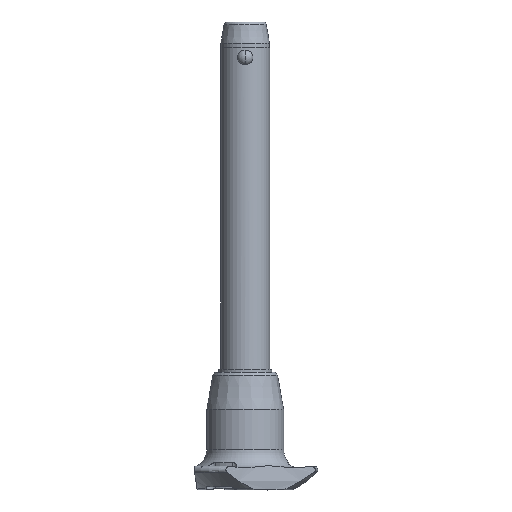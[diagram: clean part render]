
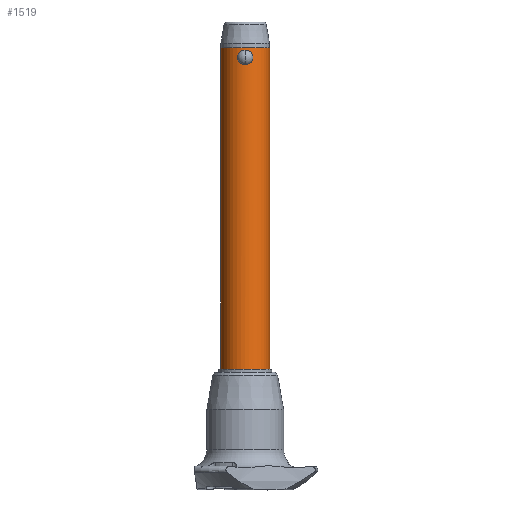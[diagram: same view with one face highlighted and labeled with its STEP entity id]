
A CAD part, front view. The second image highlights one B-rep face of the part: STEP entity #1519.
In plain terms, the highlighted cylindrical face has radius 8 mm (diameter 16 mm), a partial arc.
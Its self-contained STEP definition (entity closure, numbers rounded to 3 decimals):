
#17 = VECTOR ( 'NONE', #2094, 1000. ) ;
#35 = B_SPLINE_CURVE_WITH_KNOTS ( 'NONE', 3,
 ( #2719, #2483, #1841, #934, #1358, #1604, #1417, #2087, #2509, #2274, #479, #2260, #1133, #2073, #1638, #513, #966, #2021, #1793, #918, #2746, #277, #732, #2529, #2035, #2310, #64, #2925, #1861, #2765 ),
 .UNSPECIFIED., .F., .F.,
 ( 4, 2, 2, 2, 2, 2, 2, 2, 2, 2, 2, 2, 2, 2, 4 ),
 ( 0.008, 0.009, 0.009, 0.01, 0.01, 0.011, 0.011, 0.012, 0.012, 0.013, 0.014, 0.014, 0.015, 0.015, 0.016 ),
 .UNSPECIFIED. ) ;
#64 = CARTESIAN_POINT ( 'NONE',  ( 0.645, -7.976, 4.704 ) ) ;
#123 = EDGE_LOOP ( 'NONE', ( #2112, #1525 ) ) ;
#166 = CARTESIAN_POINT ( 'NONE',  ( 8., 0., -100. ) ) ;
#182 = CARTESIAN_POINT ( 'NONE',  ( -1.527, -7.854, 4.313 ) ) ;
#195 = CARTESIAN_POINT ( 'NONE',  ( -2.003, -7.746, 3.882 ) ) ;
#206 = CARTESIAN_POINT ( 'NONE',  ( -0.326, -7.995, 4.761 ) ) ;
#208 = VERTEX_POINT ( 'NONE', #166 ) ;
#243 = EDGE_CURVE ( 'NONE', #520, #1653, #543, .T. ) ;
#277 = CARTESIAN_POINT ( 'NONE',  ( 1.66, -7.827, 4.215 ) ) ;
#391 = CARTESIAN_POINT ( 'NONE',  ( -2.459, -7.613, 3.036 ) ) ;
#399 = ORIENTED_EDGE ( 'NONE', *, *, #2068, .T. ) ;
#401 = DIRECTION ( 'NONE',  ( 0., 0., -1. ) ) ;
#405 = CARTESIAN_POINT ( 'NONE',  ( -2.276, -7.67, 3.482 ) ) ;
#407 = VECTOR ( 'NONE', #953, 1000. ) ;
#420 = CARTESIAN_POINT ( 'NONE',  ( -1.254, -7.902, 0.297 ) ) ;
#431 = CARTESIAN_POINT ( 'NONE',  ( -2.461, -7.612, 1.746 ) ) ;
#447 = CARTESIAN_POINT ( 'NONE',  ( 0., -8., 0. ) ) ;
#452 = CIRCLE ( 'NONE', #874, 8. ) ;
#458 = CARTESIAN_POINT ( 'NONE',  ( -8., 0., -100. ) ) ;
#479 = CARTESIAN_POINT ( 'NONE',  ( 2.275, -7.67, 1.291 ) ) ;
#513 = CARTESIAN_POINT ( 'NONE',  ( 2.547, -7.584, 2.549 ) ) ;
#520 = VERTEX_POINT ( 'NONE', #1405 ) ;
#532 = LINE ( 'NONE', #1659, #17 ) ;
#543 = B_SPLINE_CURVE_WITH_KNOTS ( 'NONE', 3,
 ( #2203, #2642, #206, #897, #1076, #640, #871, #182, #2421, #886, #195, #844, #405, #1532, #391, #2440, #1749, #856, #2452, #431, #2696, #1065, #1555, #1788, #2674, #420, #1986, #2908, #1569, #2655 ),
 .UNSPECIFIED., .F., .F.,
 ( 4, 2, 2, 2, 2, 2, 2, 2, 2, 2, 2, 2, 2, 2, 4 ),
 ( 0., 0., 0.001, 0.001, 0.002, 0.002, 0.003, 0.003, 0.004, 0.004, 0.005, 0.006, 0.006, 0.007, 0.008 ),
 .UNSPECIFIED. ) ;
#609 = DIRECTION ( 'NONE',  ( 1., 0., 0. ) ) ;
#621 = DIRECTION ( 'NONE',  ( 0., 0., 1. ) ) ;
#640 = CARTESIAN_POINT ( 'NONE',  ( -1.107, -7.924, 4.548 ) ) ;
#671 = ORIENTED_EDGE ( 'NONE', *, *, #1961, .F. ) ;
#693 = LINE ( 'NONE', #2025, #407 ) ;
#732 = CARTESIAN_POINT ( 'NONE',  ( 1.529, -7.854, 4.312 ) ) ;
#754 = DIRECTION ( 'NONE',  ( 0., 0., 1. ) ) ;
#785 = CIRCLE ( 'NONE', #828, 8. ) ;
#828 = AXIS2_PLACEMENT_3D ( 'NONE', #1252, #621, #609 ) ;
#844 = CARTESIAN_POINT ( 'NONE',  ( -2.193, -7.694, 3.623 ) ) ;
#856 = CARTESIAN_POINT ( 'NONE',  ( -2.547, -7.584, 2.229 ) ) ;
#871 = CARTESIAN_POINT ( 'NONE',  ( -1.252, -7.903, 4.479 ) ) ;
#874 = AXIS2_PLACEMENT_3D ( 'NONE', #2184, #401, #1297 ) ;
#886 = CARTESIAN_POINT ( 'NONE',  ( -1.896, -7.773, 4.001 ) ) ;
#897 = CARTESIAN_POINT ( 'NONE',  ( -0.645, -7.976, 4.704 ) ) ;
#911 = ORIENTED_EDGE ( 'NONE', *, *, #1633, .F. ) ;
#918 = CARTESIAN_POINT ( 'NONE',  ( 2.211, -7.69, 3.626 ) ) ;
#934 = CARTESIAN_POINT ( 'NONE',  ( 1.105, -7.925, 0.226 ) ) ;
#953 = DIRECTION ( 'NONE',  ( 0., 0., 1. ) ) ;
#966 = CARTESIAN_POINT ( 'NONE',  ( 2.529, -7.59, 2.71 ) ) ;
#989 = FACE_OUTER_BOUND ( 'NONE', #2407, .T. ) ;
#1065 = CARTESIAN_POINT ( 'NONE',  ( -2.211, -7.69, 1.148 ) ) ;
#1076 = CARTESIAN_POINT ( 'NONE',  ( -0.803, -7.961, 4.661 ) ) ;
#1133 = CARTESIAN_POINT ( 'NONE',  ( 2.46, -7.613, 1.742 ) ) ;
#1156 = CARTESIAN_POINT ( 'NONE',  ( 0., 0., -100. ) ) ;
#1252 = CARTESIAN_POINT ( 'NONE',  ( 0., 0., 5.6 ) ) ;
#1297 = DIRECTION ( 'NONE',  ( 1., 0., 0. ) ) ;
#1341 = EDGE_CURVE ( 'NONE', #1653, #520, #35, .T. ) ;
#1358 = CARTESIAN_POINT ( 'NONE',  ( 1.252, -7.903, 0.296 ) ) ;
#1405 = CARTESIAN_POINT ( 'NONE',  ( 0., -8., 4.775 ) ) ;
#1417 = CARTESIAN_POINT ( 'NONE',  ( 1.657, -7.827, 0.558 ) ) ;
#1492 = EDGE_CURVE ( 'NONE', #2117, #2492, #532, .T. ) ;
#1519 = ADVANCED_FACE ( 'NONE', ( #989, #1868 ), #1849, .T. ) ;
#1525 = ORIENTED_EDGE ( 'NONE', *, *, #1341, .F. ) ;
#1532 = CARTESIAN_POINT ( 'NONE',  ( -2.408, -7.629, 3.189 ) ) ;
#1555 = CARTESIAN_POINT ( 'NONE',  ( -2.016, -7.746, 0.883 ) ) ;
#1557 = VERTEX_POINT ( 'NONE', #2373 ) ;
#1569 = CARTESIAN_POINT ( 'NONE',  ( -0.324, -8., 0. ) ) ;
#1604 = CARTESIAN_POINT ( 'NONE',  ( 1.529, -7.854, 0.463 ) ) ;
#1633 = EDGE_CURVE ( 'NONE', #2492, #1557, #785, .T. ) ;
#1638 = CARTESIAN_POINT ( 'NONE',  ( 2.546, -7.584, 2.22 ) ) ;
#1653 = VERTEX_POINT ( 'NONE', #447 ) ;
#1659 = CARTESIAN_POINT ( 'NONE',  ( -8., 0., -100. ) ) ;
#1749 = CARTESIAN_POINT ( 'NONE',  ( -2.546, -7.584, 2.553 ) ) ;
#1788 = CARTESIAN_POINT ( 'NONE',  ( -1.659, -7.827, 0.559 ) ) ;
#1793 = CARTESIAN_POINT ( 'NONE',  ( 2.41, -7.629, 3.184 ) ) ;
#1841 = CARTESIAN_POINT ( 'NONE',  ( 0.652, -7.979, 0.058 ) ) ;
#1849 = CYLINDRICAL_SURFACE ( 'NONE', #2098, 8. ) ;
#1861 = CARTESIAN_POINT ( 'NONE',  ( 0.164, -8., 4.775 ) ) ;
#1868 = FACE_BOUND ( 'NONE', #123, .T. ) ;
#1961 = EDGE_CURVE ( 'NONE', #208, #2117, #452, .T. ) ;
#1986 = CARTESIAN_POINT ( 'NONE',  ( -1.106, -7.925, 0.226 ) ) ;
#2021 = CARTESIAN_POINT ( 'NONE',  ( 2.461, -7.612, 3.027 ) ) ;
#2025 = CARTESIAN_POINT ( 'NONE',  ( 8., 0., -100. ) ) ;
#2035 = CARTESIAN_POINT ( 'NONE',  ( 1.108, -7.924, 4.548 ) ) ;
#2061 = DIRECTION ( 'NONE',  ( 1., 0., 0. ) ) ;
#2068 = EDGE_CURVE ( 'NONE', #208, #1557, #693, .T. ) ;
#2073 = CARTESIAN_POINT ( 'NONE',  ( 2.528, -7.59, 2.058 ) ) ;
#2087 = CARTESIAN_POINT ( 'NONE',  ( 1.894, -7.773, 0.773 ) ) ;
#2094 = DIRECTION ( 'NONE',  ( 0., 0., 1. ) ) ;
#2098 = AXIS2_PLACEMENT_3D ( 'NONE', #1156, #754, #2061 ) ;
#2112 = ORIENTED_EDGE ( 'NONE', *, *, #243, .F. ) ;
#2117 = VERTEX_POINT ( 'NONE', #458 ) ;
#2184 = CARTESIAN_POINT ( 'NONE',  ( 0., 0., -100. ) ) ;
#2203 = CARTESIAN_POINT ( 'NONE',  ( 0., -8., 4.775 ) ) ;
#2260 = CARTESIAN_POINT ( 'NONE',  ( 2.408, -7.629, 1.586 ) ) ;
#2274 = CARTESIAN_POINT ( 'NONE',  ( 2.194, -7.694, 1.153 ) ) ;
#2310 = CARTESIAN_POINT ( 'NONE',  ( 0.804, -7.961, 4.661 ) ) ;
#2373 = CARTESIAN_POINT ( 'NONE',  ( 8., 0., 5.6 ) ) ;
#2407 = EDGE_LOOP ( 'NONE', ( #2464, #671, #399, #911 ) ) ;
#2421 = CARTESIAN_POINT ( 'NONE',  ( -1.658, -7.827, 4.216 ) ) ;
#2440 = CARTESIAN_POINT ( 'NONE',  ( -2.529, -7.59, 2.716 ) ) ;
#2452 = CARTESIAN_POINT ( 'NONE',  ( -2.529, -7.59, 2.064 ) ) ;
#2464 = ORIENTED_EDGE ( 'NONE', *, *, #1492, .F. ) ;
#2483 = CARTESIAN_POINT ( 'NONE',  ( 0.324, -8., 0. ) ) ;
#2492 = VERTEX_POINT ( 'NONE', #2838 ) ;
#2509 = CARTESIAN_POINT ( 'NONE',  ( 2.004, -7.746, 0.894 ) ) ;
#2529 = CARTESIAN_POINT ( 'NONE',  ( 1.253, -7.903, 4.478 ) ) ;
#2642 = CARTESIAN_POINT ( 'NONE',  ( -0.164, -8., 4.775 ) ) ;
#2655 = CARTESIAN_POINT ( 'NONE',  ( 0., -8., 0. ) ) ;
#2674 = CARTESIAN_POINT ( 'NONE',  ( -1.53, -7.854, 0.464 ) ) ;
#2696 = CARTESIAN_POINT ( 'NONE',  ( -2.411, -7.628, 1.592 ) ) ;
#2719 = CARTESIAN_POINT ( 'NONE',  ( 0., -8., 0. ) ) ;
#2746 = CARTESIAN_POINT ( 'NONE',  ( 2.016, -7.746, 3.891 ) ) ;
#2765 = CARTESIAN_POINT ( 'NONE',  ( 0., -8., 4.775 ) ) ;
#2838 = CARTESIAN_POINT ( 'NONE',  ( -8., 0., 5.6 ) ) ;
#2908 = CARTESIAN_POINT ( 'NONE',  ( -0.652, -7.979, 0.058 ) ) ;
#2925 = CARTESIAN_POINT ( 'NONE',  ( 0.326, -7.995, 4.761 ) ) ;
